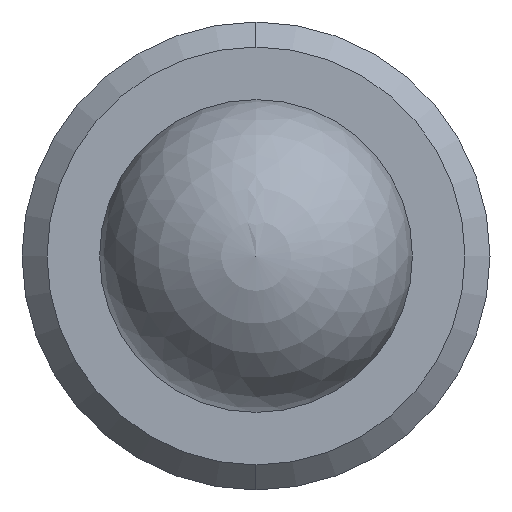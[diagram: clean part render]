
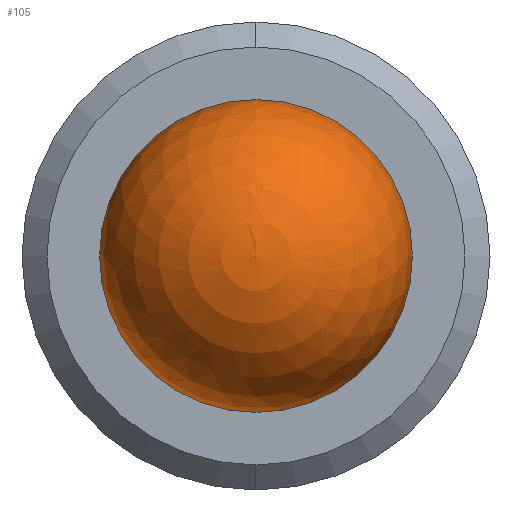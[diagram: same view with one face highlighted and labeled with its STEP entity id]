
A CAD part, left-side view. The second image highlights one B-rep face of the part: STEP entity #105.
In plain terms, the highlighted spherical face has radius 1.587 mm.
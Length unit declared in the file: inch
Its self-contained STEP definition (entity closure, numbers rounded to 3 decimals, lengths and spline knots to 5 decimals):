
#1 = EDGE_CURVE ( 'NONE', #590, #144, #452, .T. ) ;
#24 = ORIENTED_EDGE ( 'NONE', *, *, #50, .T. ) ;
#43 = EDGE_LOOP ( 'NONE', ( #358, #24 ) ) ;
#50 = EDGE_CURVE ( 'NONE', #590, #144, #443, .T. ) ;
#105 = ADVANCED_FACE ( 'NONE', ( #444 ), #461, .T. ) ;
#113 = DIRECTION ( 'NONE',  ( -1., 0., 0. ) ) ;
#115 = AXIS2_PLACEMENT_3D ( 'NONE', #509, #113, #552 ) ;
#117 = DIRECTION ( 'NONE',  ( -1., 0., 0. ) ) ;
#144 = VERTEX_POINT ( 'NONE', #248 ) ;
#150 = CARTESIAN_POINT ( 'NONE',  ( 0., 0., 0. ) ) ;
#187 = AXIS2_PLACEMENT_3D ( 'NONE', #421, #117, #470 ) ;
#248 = CARTESIAN_POINT ( 'NONE',  ( 0., -0.0625, 0. ) ) ;
#301 = AXIS2_PLACEMENT_3D ( 'NONE', #150, #582, #589 ) ;
#317 = CARTESIAN_POINT ( 'NONE',  ( 0., 0.0625, 0. ) ) ;
#358 = ORIENTED_EDGE ( 'NONE', *, *, #1, .F. ) ;
#421 = CARTESIAN_POINT ( 'NONE',  ( 0., 0., 0. ) ) ;
#443 = CIRCLE ( 'NONE', #187, 0.0625 ) ;
#444 = FACE_OUTER_BOUND ( 'NONE', #43, .T. ) ;
#452 = CIRCLE ( 'NONE', #301, 0.0625 ) ;
#461 = SPHERICAL_SURFACE ( 'NONE', #115, 0.0625 ) ;
#470 = DIRECTION ( 'NONE',  ( 0., 0., 1. ) ) ;
#509 = CARTESIAN_POINT ( 'NONE',  ( 0., 0., 0. ) ) ;
#552 = DIRECTION ( 'NONE',  ( 0., 0., 1. ) ) ;
#582 = DIRECTION ( 'NONE',  ( 1., 0., 0. ) ) ;
#589 = DIRECTION ( 'NONE',  ( 0., 0., -1. ) ) ;
#590 = VERTEX_POINT ( 'NONE', #317 ) ;
